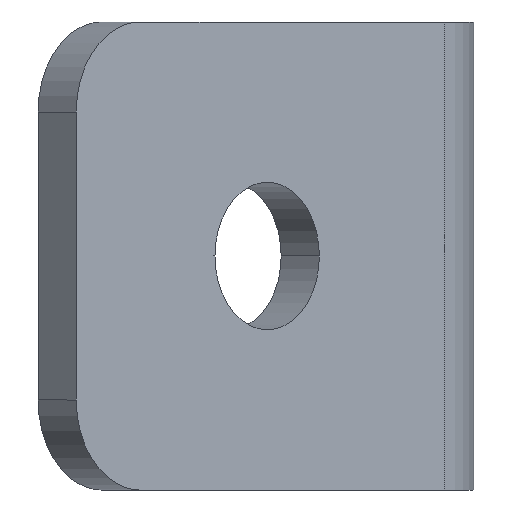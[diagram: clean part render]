
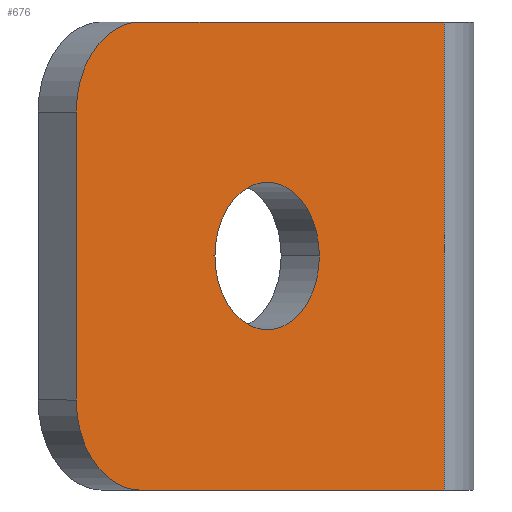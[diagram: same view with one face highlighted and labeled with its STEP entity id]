
A CAD part, left-side view. The second image highlights one B-rep face of the part: STEP entity #676.
In plain terms, the highlighted planar face has unit normal (-0.707, -0.707, 0).
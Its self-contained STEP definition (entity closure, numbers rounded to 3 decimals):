
#8 = CARTESIAN_POINT ( 'NONE',  ( -28.364, 13.572, 26. ) ) ;
#15 = VERTEX_POINT ( 'NONE', #8 ) ;
#41 = EDGE_LOOP ( 'NONE', ( #43, #307, #682, #74, #347, #604 ) ) ;
#43 = ORIENTED_EDGE ( 'NONE', *, *, #69, .T. ) ;
#45 = DIRECTION ( 'NONE',  ( 0.707, -0.707, 0. ) ) ;
#69 = EDGE_CURVE ( 'NONE', #436, #605, #210, .T. ) ;
#74 = ORIENTED_EDGE ( 'NONE', *, *, #498, .F. ) ;
#89 = AXIS2_PLACEMENT_3D ( 'NONE', #643, #585, #429 ) ;
#95 = FACE_BOUND ( 'NONE', #565, .T. ) ;
#101 = CARTESIAN_POINT ( 'NONE',  ( -24.192, 9.401, 13. ) ) ;
#104 = CARTESIAN_POINT ( 'NONE',  ( -10.686, -4.105, 26. ) ) ;
#105 = ORIENTED_EDGE ( 'NONE', *, *, #655, .T. ) ;
#110 = DIRECTION ( 'NONE',  ( -0.707, 0.707, 0. ) ) ;
#124 = CARTESIAN_POINT ( 'NONE',  ( -31.899, 17.108, 26. ) ) ;
#150 = DIRECTION ( 'NONE',  ( 0.707, -0.707, 0. ) ) ;
#158 = CARTESIAN_POINT ( 'NONE',  ( -31.899, 17.108, 21. ) ) ;
#163 = VECTOR ( 'NONE', #348, 1000. ) ;
#170 = CARTESIAN_POINT ( 'NONE',  ( -11.447, -3.344, 26. ) ) ;
#171 = DIRECTION ( 'NONE',  ( -0.707, 0.707, 0. ) ) ;
#178 = AXIS2_PLACEMENT_3D ( 'NONE', #685, #376, #45 ) ;
#185 = VERTEX_POINT ( 'NONE', #262 ) ;
#206 = EDGE_CURVE ( 'NONE', #453, #554, #667, .T. ) ;
#210 = LINE ( 'NONE', #124, #163 ) ;
#216 = CARTESIAN_POINT ( 'NONE',  ( -21.292, 6.501, 13. ) ) ;
#234 = DIRECTION ( 'NONE',  ( -0.707, 0.707, 0. ) ) ;
#247 = EDGE_CURVE ( 'NONE', #605, #372, #495, .T. ) ;
#248 = DIRECTION ( 'NONE',  ( 0.707, 0.707, 0. ) ) ;
#256 = CARTESIAN_POINT ( 'NONE',  ( -28.364, 13.572, 0. ) ) ;
#262 = CARTESIAN_POINT ( 'NONE',  ( -11.447, -3.344, 0. ) ) ;
#264 = CARTESIAN_POINT ( 'NONE',  ( -11.447, -3.344, 26. ) ) ;
#272 = EDGE_CURVE ( 'NONE', #650, #15, #511, .T. ) ;
#276 = LINE ( 'NONE', #419, #496 ) ;
#292 = CIRCLE ( 'NONE', #178, 5. ) ;
#307 = ORIENTED_EDGE ( 'NONE', *, *, #247, .T. ) ;
#337 = FACE_OUTER_BOUND ( 'NONE', #41, .T. ) ;
#347 = ORIENTED_EDGE ( 'NONE', *, *, #272, .T. ) ;
#348 = DIRECTION ( 'NONE',  ( 0., 0., -1. ) ) ;
#351 = AXIS2_PLACEMENT_3D ( 'NONE', #216, #248, #110 ) ;
#352 = LINE ( 'NONE', #264, #379 ) ;
#372 = VERTEX_POINT ( 'NONE', #256 ) ;
#376 = DIRECTION ( 'NONE',  ( -0.707, -0.707, 0. ) ) ;
#379 = VECTOR ( 'NONE', #580, 1000. ) ;
#401 = ORIENTED_EDGE ( 'NONE', *, *, #206, .T. ) ;
#413 = CARTESIAN_POINT ( 'NONE',  ( -18.393, 3.602, 13. ) ) ;
#415 = AXIS2_PLACEMENT_3D ( 'NONE', #680, #517, #150 ) ;
#419 = CARTESIAN_POINT ( 'NONE',  ( -10.686, -4.105, 0. ) ) ;
#429 = DIRECTION ( 'NONE',  ( 0.707, -0.707, 0. ) ) ;
#436 = VERTEX_POINT ( 'NONE', #158 ) ;
#453 = VERTEX_POINT ( 'NONE', #101 ) ;
#471 = EDGE_CURVE ( 'NONE', #185, #372, #276, .T. ) ;
#485 = CARTESIAN_POINT ( 'NONE',  ( -21.292, 6.501, 13. ) ) ;
#495 = CIRCLE ( 'NONE', #89, 5. ) ;
#496 = VECTOR ( 'NONE', #627, 1000. ) ;
#498 = EDGE_CURVE ( 'NONE', #650, #185, #352, .T. ) ;
#511 = LINE ( 'NONE', #104, #638 ) ;
#515 = CARTESIAN_POINT ( 'NONE',  ( -31.899, 17.108, 5. ) ) ;
#517 = DIRECTION ( 'NONE',  ( -0.707, -0.707, 0. ) ) ;
#519 = AXIS2_PLACEMENT_3D ( 'NONE', #485, #537, #171 ) ;
#537 = DIRECTION ( 'NONE',  ( 0.707, 0.707, 0. ) ) ;
#541 = CIRCLE ( 'NONE', #519, 4.1 ) ;
#554 = VERTEX_POINT ( 'NONE', #413 ) ;
#565 = EDGE_LOOP ( 'NONE', ( #401, #105 ) ) ;
#573 = EDGE_CURVE ( 'NONE', #15, #436, #292, .T. ) ;
#580 = DIRECTION ( 'NONE',  ( 0., 0., -1. ) ) ;
#585 = DIRECTION ( 'NONE',  ( -0.707, -0.707, 0. ) ) ;
#604 = ORIENTED_EDGE ( 'NONE', *, *, #573, .T. ) ;
#605 = VERTEX_POINT ( 'NONE', #515 ) ;
#627 = DIRECTION ( 'NONE',  ( -0.707, 0.707, 0. ) ) ;
#638 = VECTOR ( 'NONE', #234, 1000. ) ;
#640 = PLANE ( 'NONE',  #415 ) ;
#643 = CARTESIAN_POINT ( 'NONE',  ( -28.364, 13.572, 5. ) ) ;
#650 = VERTEX_POINT ( 'NONE', #170 ) ;
#655 = EDGE_CURVE ( 'NONE', #554, #453, #541, .T. ) ;
#667 = CIRCLE ( 'NONE', #351, 4.1 ) ;
#676 = ADVANCED_FACE ( 'NONE', ( #95, #337 ), #640, .T. ) ;
#680 = CARTESIAN_POINT ( 'NONE',  ( -10.686, -4.105, 26. ) ) ;
#682 = ORIENTED_EDGE ( 'NONE', *, *, #471, .F. ) ;
#685 = CARTESIAN_POINT ( 'NONE',  ( -28.364, 13.572, 21. ) ) ;
